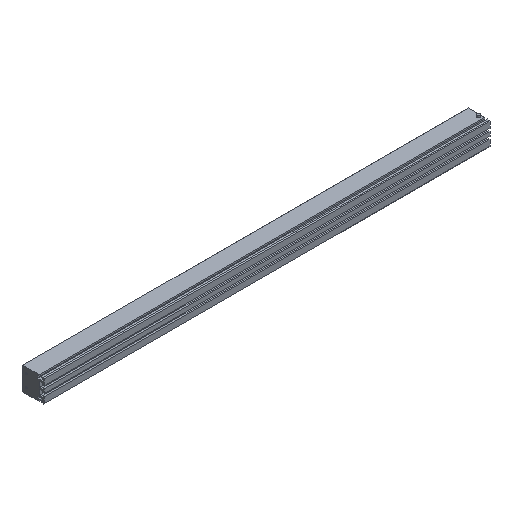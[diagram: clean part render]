
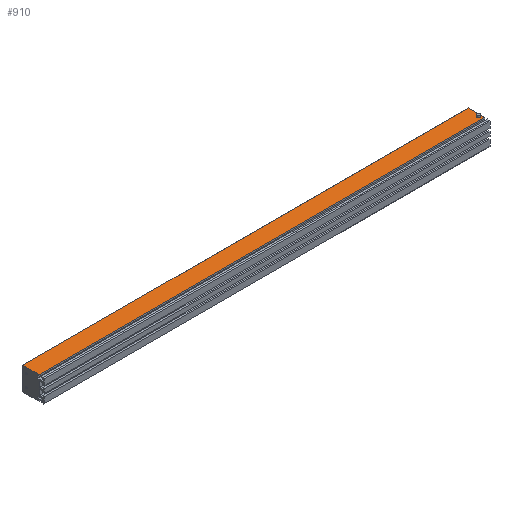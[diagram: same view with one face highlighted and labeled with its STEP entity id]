
A CAD part, isometric view. The second image highlights one B-rep face of the part: STEP entity #910.
In plain terms, the highlighted planar face has unit normal (0, 0, 1).
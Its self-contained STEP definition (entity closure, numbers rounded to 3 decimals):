
#24 = VECTOR ( 'NONE', #1658, 1000. ) ;
#35 = VERTEX_POINT ( 'NONE', #1689 ) ;
#72 = LINE ( 'NONE', #1550, #1647 ) ;
#105 = CARTESIAN_POINT ( 'NONE',  ( 550., 0., 0. ) ) ;
#125 = LINE ( 'NONE', #1341, #24 ) ;
#132 = VERTEX_POINT ( 'NONE', #389 ) ;
#135 = VERTEX_POINT ( 'NONE', #394 ) ;
#139 = ORIENTED_EDGE ( 'NONE', *, *, #496, .F. ) ;
#172 = AXIS2_PLACEMENT_3D ( 'NONE', #1311, #1142, #1157 ) ;
#223 = ORIENTED_EDGE ( 'NONE', *, *, #1639, .F. ) ;
#236 = CARTESIAN_POINT ( 'NONE',  ( 550., 0., 0. ) ) ;
#363 = VERTEX_POINT ( 'NONE', #1102 ) ;
#368 = EDGE_CURVE ( 'NONE', #510, #135, #1424, .T. ) ;
#389 = CARTESIAN_POINT ( 'NONE',  ( 550., 6.6, 0. ) ) ;
#394 = CARTESIAN_POINT ( 'NONE',  ( 0., 6.6, 0. ) ) ;
#395 = DIRECTION ( 'NONE',  ( 0., 0., -1. ) ) ;
#431 = DIRECTION ( 'NONE',  ( 0., -1., 0. ) ) ;
#460 = CARTESIAN_POINT ( 'NONE',  ( 547.15, 11.392, 0. ) ) ;
#478 = DIRECTION ( 'NONE',  ( -1., 0., 0. ) ) ;
#483 = FACE_OUTER_BOUND ( 'NONE', #1708, .T. ) ;
#496 = EDGE_CURVE ( 'NONE', #1616, #132, #685, .T. ) ;
#510 = VERTEX_POINT ( 'NONE', #2021 ) ;
#513 = VECTOR ( 'NONE', #431, 1000. ) ;
#519 = EDGE_CURVE ( 'NONE', #35, #363, #2058, .T. ) ;
#611 = ORIENTED_EDGE ( 'NONE', *, *, #368, .T. ) ;
#654 = EDGE_LOOP ( 'NONE', ( #787, #223 ) ) ;
#675 = AXIS2_PLACEMENT_3D ( 'NONE', #236, #395, #1036 ) ;
#685 = LINE ( 'NONE', #105, #513 ) ;
#787 = ORIENTED_EDGE ( 'NONE', *, *, #519, .F. ) ;
#795 = DIRECTION ( 'NONE',  ( 0., -1., 0. ) ) ;
#815 = EDGE_CURVE ( 'NONE', #1616, #510, #72, .T. ) ;
#823 = CARTESIAN_POINT ( 'NONE',  ( 550., 26.7, 0. ) ) ;
#910 = ADVANCED_FACE ( 'NONE', ( #1783, #483 ), #1526, .F. ) ;
#939 = CARTESIAN_POINT ( 'NONE',  ( 0., 0., 0. ) ) ;
#946 = DIRECTION ( 'NONE',  ( 0., 0., 1. ) ) ;
#1036 = DIRECTION ( 'NONE',  ( -1., 0., 0. ) ) ;
#1102 = CARTESIAN_POINT ( 'NONE',  ( 549., 11.392, 0. ) ) ;
#1142 = DIRECTION ( 'NONE',  ( 0., 0., 1. ) ) ;
#1157 = DIRECTION ( 'NONE',  ( -1., 0., 0. ) ) ;
#1258 = ORIENTED_EDGE ( 'NONE', *, *, #815, .T. ) ;
#1311 = CARTESIAN_POINT ( 'NONE',  ( 547.15, 11.392, 0. ) ) ;
#1341 = CARTESIAN_POINT ( 'NONE',  ( 0., 6.6, 0. ) ) ;
#1424 = LINE ( 'NONE', #939, #1981 ) ;
#1433 = EDGE_CURVE ( 'NONE', #135, #132, #125, .T. ) ;
#1465 = AXIS2_PLACEMENT_3D ( 'NONE', #460, #946, #478 ) ;
#1526 = PLANE ( 'NONE',  #675 ) ;
#1550 = CARTESIAN_POINT ( 'NONE',  ( 550., 26.7, 0. ) ) ;
#1616 = VERTEX_POINT ( 'NONE', #823 ) ;
#1639 = EDGE_CURVE ( 'NONE', #363, #35, #1878, .T. ) ;
#1647 = VECTOR ( 'NONE', #1816, 1000. ) ;
#1658 = DIRECTION ( 'NONE',  ( 1., 0., 0. ) ) ;
#1689 = CARTESIAN_POINT ( 'NONE',  ( 545.3, 11.392, 0. ) ) ;
#1708 = EDGE_LOOP ( 'NONE', ( #139, #1258, #611, #1928 ) ) ;
#1783 = FACE_BOUND ( 'NONE', #654, .T. ) ;
#1816 = DIRECTION ( 'NONE',  ( -1., 0., 0. ) ) ;
#1878 = CIRCLE ( 'NONE', #172, 1.85 ) ;
#1928 = ORIENTED_EDGE ( 'NONE', *, *, #1433, .T. ) ;
#1981 = VECTOR ( 'NONE', #795, 1000. ) ;
#2021 = CARTESIAN_POINT ( 'NONE',  ( 0., 26.7, 0. ) ) ;
#2058 = CIRCLE ( 'NONE', #1465, 1.85 ) ;
